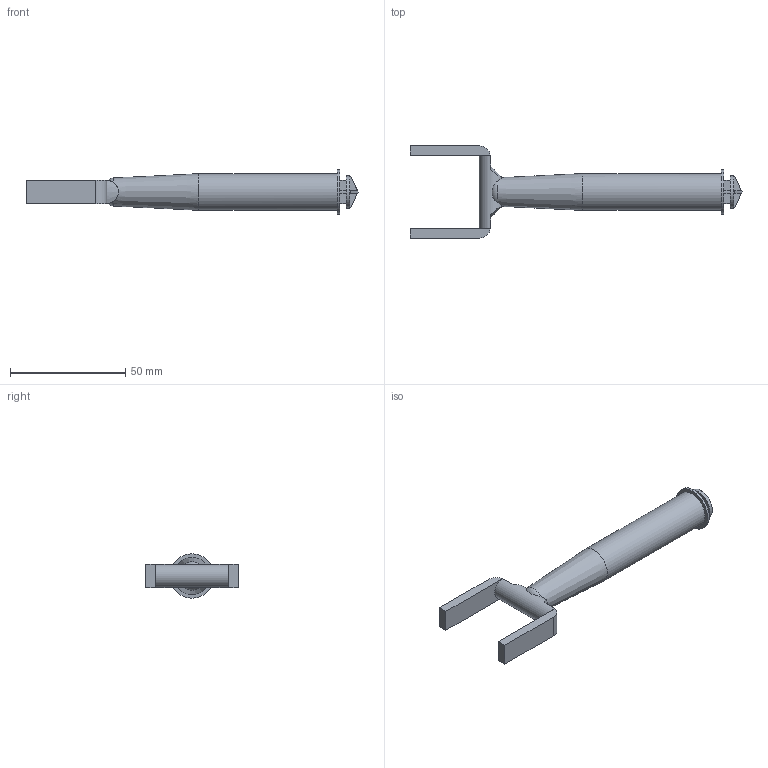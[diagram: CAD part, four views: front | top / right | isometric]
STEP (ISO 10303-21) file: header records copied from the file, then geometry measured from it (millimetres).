
FILE_DESCRIPTION(/* description */ ('STEP AP242 Edition 2','CAx-IF Rec.Pracs.---Representation and Presentation of Product Manufacturing Information (PMI)---4.0---2014-10-13','CAx-IF Rec.Pracs.---3D Tessellated Geometry---0.4---2014-09-14','2;1','CAx-IF Rec.Pracs.---User Defined Attributes---1.5---2016-08-15'),/* implementation_level */ '2;1');
FILE_NAME(/* name */ '695aff5bd13f1a0233889620',/* time_stamp */ '2026-01-05T00:01:31Z',/* author */ (''),/* organization */ (''),/* preprocessor_version */ 'ST-DEVELOPER v20',/* originating_system */ 'ONSHAPE BY PTC INC, 1.208',/* authorisation */ ' ');
FILE_SCHEMA (('AP242_MANAGED_MODEL_BASED_3D_ENGINEERING_MIM_LF { 1 0 10303 442 3 1 4 }'));
Length unit declared in the file: metre
Products named in the file (1): Syringe_piston_20ml
Bounding box: 144 x 40 x 19.2 mm (x, y, z)
Volume: 23086.2 mm3; surface area: 8443 mm2
Topology: 1 solids, 1 shells, 52 faces, 140 edges, 93 vertices
Faces by surface type: plane 32, cylinder 14, cone 4, torus 2
Full cylindrical faces by diameter (mm): 14 x1, 16 x1, 19.2 x1
Entity records: 1670 total; most frequent: CARTESIAN_POINT 386, ORIENTED_EDGE 264, DIRECTION 250, EDGE_CURVE 132, VERTEX_POINT 91, AXIS2_PLACEMENT_3D 87, LINE 76, VECTOR 76
